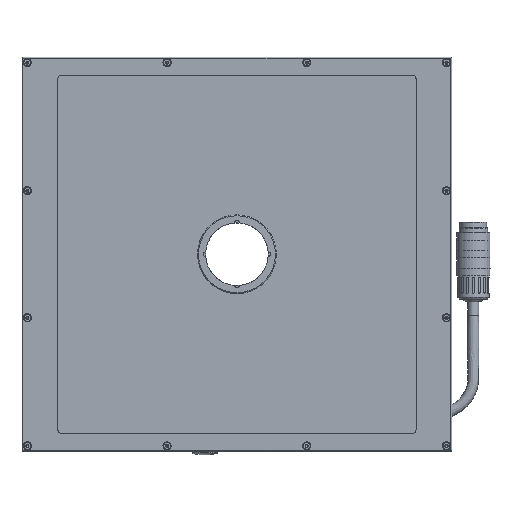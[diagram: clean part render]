
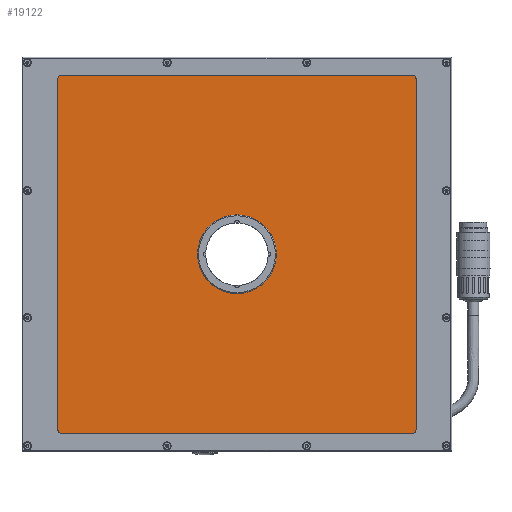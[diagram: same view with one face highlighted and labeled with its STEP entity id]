
A CAD part, top view. The second image highlights one B-rep face of the part: STEP entity #19122.
In plain terms, the highlighted planar face has unit normal (0, 0, 1).
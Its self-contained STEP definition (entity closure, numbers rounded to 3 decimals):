
#1352=CIRCLE('',#28760,20.);
#1353=CIRCLE('',#28761,2.);
#1354=CIRCLE('',#28762,2.);
#1355=CIRCLE('',#28763,2.);
#1356=CIRCLE('',#28764,2.);
#2168=ORIENTED_EDGE('',*,*,#7736,.T.);
#2169=ORIENTED_EDGE('',*,*,#7726,.T.);
#2170=ORIENTED_EDGE('',*,*,#7737,.T.);
#2171=ORIENTED_EDGE('',*,*,#7728,.T.);
#2172=ORIENTED_EDGE('',*,*,#7738,.T.);
#2173=ORIENTED_EDGE('',*,*,#7732,.T.);
#2174=ORIENTED_EDGE('',*,*,#7739,.T.);
#2175=ORIENTED_EDGE('',*,*,#7720,.T.);
#2176=ORIENTED_EDGE('',*,*,#7740,.T.);
#7720=EDGE_CURVE('',#10504,#10505,#12469,.T.);
#7726=EDGE_CURVE('',#10511,#10510,#12475,.T.);
#7728=EDGE_CURVE('',#10512,#10513,#12477,.T.);
#7732=EDGE_CURVE('',#10516,#10517,#12481,.T.);
#7736=EDGE_CURVE('',#10520,#10520,#1352,.T.);
#7737=EDGE_CURVE('',#10510,#10512,#1353,.T.);
#7738=EDGE_CURVE('',#10513,#10516,#1354,.T.);
#7739=EDGE_CURVE('',#10517,#10504,#1355,.T.);
#7740=EDGE_CURVE('',#10505,#10511,#1356,.T.);
#10504=VERTEX_POINT('',#36223);
#10505=VERTEX_POINT('',#36224);
#10510=VERTEX_POINT('',#36235);
#10511=VERTEX_POINT('',#36237);
#10512=VERTEX_POINT('',#36241);
#10513=VERTEX_POINT('',#36242);
#10516=VERTEX_POINT('',#36250);
#10517=VERTEX_POINT('',#36251);
#10520=VERTEX_POINT('',#36259);
#12469=LINE('',#36222,#13926);
#12475=LINE('',#36236,#13932);
#12477=LINE('',#36240,#13934);
#12481=LINE('',#36249,#13938);
#13926=VECTOR('',#30761,1000.);
#13932=VECTOR('',#30769,1000.);
#13934=VECTOR('',#30773,1000.);
#13938=VECTOR('',#30779,1000.);
#15387=EDGE_LOOP('',(#2168));
#15388=EDGE_LOOP('',(#2169,#2170,#2171,#2172,#2173,#2174,#2175,#2176));
#16951=FACE_BOUND('',#15387,.T.);
#16952=FACE_BOUND('',#15388,.T.);
#18566=PLANE('',#28759);
#19122=ADVANCED_FACE('',(#16951,#16952),#18566,.T.);
#28759=AXIS2_PLACEMENT_3D('',#36257,#30783,#30784);
#28760=AXIS2_PLACEMENT_3D('',#36258,#30785,#30786);
#28761=AXIS2_PLACEMENT_3D('',#36260,#30787,#30788);
#28762=AXIS2_PLACEMENT_3D('',#36261,#30789,#30790);
#28763=AXIS2_PLACEMENT_3D('',#36262,#30791,#30792);
#28764=AXIS2_PLACEMENT_3D('',#36263,#30793,#30794);
#30761=DIRECTION('',(0.,-1.,0.));
#30769=DIRECTION('',(1.,0.,0.));
#30773=DIRECTION('',(0.,1.,0.));
#30779=DIRECTION('',(-1.,0.,0.));
#30783=DIRECTION('',(0.,0.,1.));
#30784=DIRECTION('',(1.,0.,0.));
#30785=DIRECTION('',(0.,0.,-1.));
#30786=DIRECTION('',(0.,1.,0.));
#30787=DIRECTION('',(0.,0.,1.));
#30788=DIRECTION('',(1.,0.,0.));
#30789=DIRECTION('',(0.,0.,1.));
#30790=DIRECTION('',(1.,0.,0.));
#30791=DIRECTION('',(0.,0.,1.));
#30792=DIRECTION('',(1.,0.,0.));
#30793=DIRECTION('',(0.,0.,1.));
#30794=DIRECTION('',(1.,0.,0.));
#36222=CARTESIAN_POINT('',(-103.8,103.8,11.05));
#36223=CARTESIAN_POINT('',(-103.8,101.8,11.05));
#36224=CARTESIAN_POINT('',(-103.8,-101.8,11.05));
#36235=CARTESIAN_POINT('',(101.8,-103.8,11.05));
#36236=CARTESIAN_POINT('',(-103.8,-103.8,11.05));
#36237=CARTESIAN_POINT('',(-101.8,-103.8,11.05));
#36240=CARTESIAN_POINT('',(103.8,-103.8,11.05));
#36241=CARTESIAN_POINT('',(103.8,-101.8,11.05));
#36242=CARTESIAN_POINT('',(103.8,101.8,11.05));
#36249=CARTESIAN_POINT('',(103.8,103.8,11.05));
#36250=CARTESIAN_POINT('',(101.8,103.8,11.05));
#36251=CARTESIAN_POINT('',(-101.8,103.8,11.05));
#36257=CARTESIAN_POINT('',(0.,0.,
11.05));
#36258=CARTESIAN_POINT('',(0.,0.,
11.05));
#36259=CARTESIAN_POINT('',(0.,20.,11.05));
#36260=CARTESIAN_POINT('',(101.8,-101.8,11.05));
#36261=CARTESIAN_POINT('',(101.8,101.8,11.05));
#36262=CARTESIAN_POINT('',(-101.8,101.8,11.05));
#36263=CARTESIAN_POINT('',(-101.8,-101.8,11.05));
